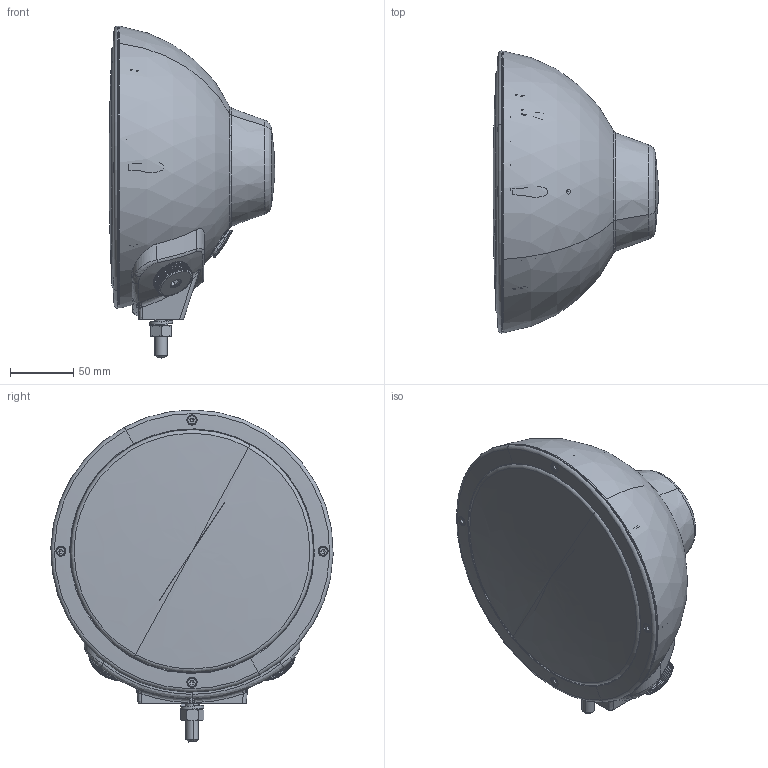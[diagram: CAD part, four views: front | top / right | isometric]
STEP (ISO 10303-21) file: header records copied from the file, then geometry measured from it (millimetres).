
FILE_DESCRIPTION(('CATIA V5 STEP Exchange','CAx-IF Rec.Pracs.--- Model Styling and Organization---1.5--- 2016-08-15','CAx-IF Rec.Pracs.---Supplemental Geometry---1.0---2011-11-01','CAx-IF Rec.Pracs.--- Composite Materials ---1.1---2010-07-15'),'2;1');
FILE_NAME('E:\tmp\ddx\2010591\3D_data_LED_aux_high_beam_headlamp_Luminator_LED_1F8 016 560-00.stp','2022-01-14T14:37:03+00:00',('none'),('none'),'CATIA Version 5-6 Release 2020 SP3 HF9','CATIA V5 STEP AP214 Edition 3 v2','none');
FILE_SCHEMA(('AUTOMOTIVE_DESIGN { 1 0 10303 214 3 1 1 1 }'));
Length unit declared in the file: millimetre
Products named in the file (1): 10002867196_D10_001
Bounding box: 130.59 x 222.34 x 261.51 mm (x, y, z)
Volume: 395475.2 mm3; surface area: 406226.5 mm2
Topology: 17 solids, 17 shells, 3445 faces, 9127 edges, 5724 vertices
Faces by surface type: bspline 1606, plane 1013, cylinder 353, torus 210, cone 207, sphere 50, revolution 4, extrusion 2
Entity records: 184079 total; most frequent: CARTESIAN_POINT 118856, ORIENTED_EDGE 18108, EDGE_CURVE 9054, B_SPLINE_CURVE_WITH_KNOTS 6248, VERTEX_POINT 5724, DIRECTION 5486, EDGE_LOOP 3570, ADVANCED_FACE 3445
